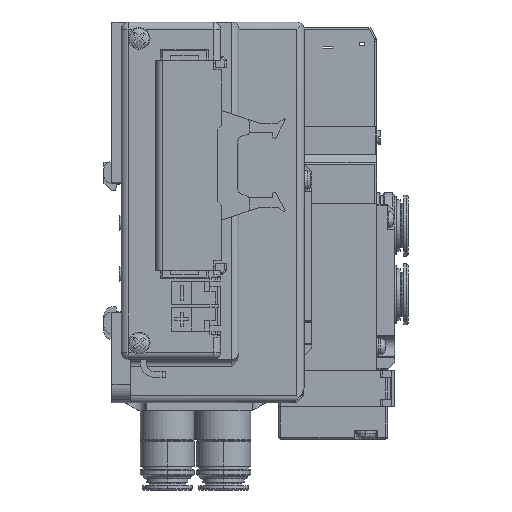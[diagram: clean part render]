
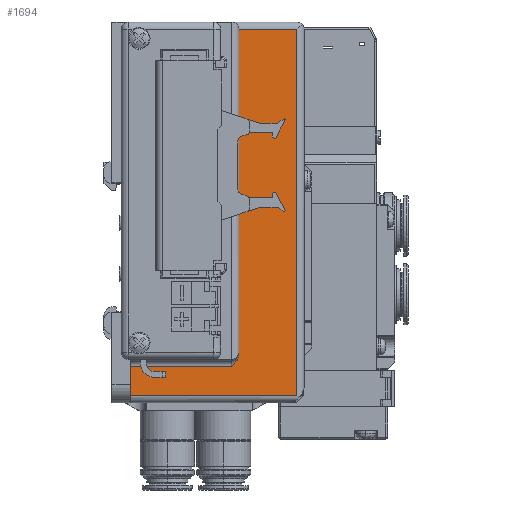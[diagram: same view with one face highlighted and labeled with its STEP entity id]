
A CAD part, left-side view. The second image highlights one B-rep face of the part: STEP entity #1694.
In plain terms, the highlighted planar face has unit normal (-1, 0, 0).
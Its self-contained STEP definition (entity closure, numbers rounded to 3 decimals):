
#1694=ADVANCED_FACE('',(#11585),#11584,.F.);
#11584=PLANE('',#25173);
#11585=FACE_OUTER_BOUND('',#25174,.T.);
#25170=CARTESIAN_POINT('',(19.5,-60.6,70.2));
#25171=DIRECTION('',(1.,0.,0.));
#25172=DIRECTION('',(0.,0.,-1.));
#25173=AXIS2_PLACEMENT_3D('',#25170,#25171,#25172);
#25174=EDGE_LOOP('',(#38159,#38160,#38161,#38162,#38163,#38164,#38165));
#38159=ORIENTED_EDGE('',*,*,#46896,.F.);
#38160=ORIENTED_EDGE('',*,*,#46839,.T.);
#38161=ORIENTED_EDGE('',*,*,#47093,.T.);
#38162=ORIENTED_EDGE('',*,*,#46683,.T.);
#38163=ORIENTED_EDGE('',*,*,#46954,.F.);
#38164=ORIENTED_EDGE('',*,*,#46956,.F.);
#38165=ORIENTED_EDGE('',*,*,#46893,.T.);
#46683=EDGE_CURVE('',#64741,#64742,#64743,.T.);
#46839=EDGE_CURVE('',#65807,#64797,#65820,.T.);
#46893=EDGE_CURVE('',#66177,#66170,#66178,.T.);
#46896=EDGE_CURVE('',#65807,#66170,#66196,.T.);
#46954=EDGE_CURVE('',#66581,#64742,#66582,.T.);
#46956=EDGE_CURVE('',#66177,#66581,#66594,.T.);
#47093=EDGE_CURVE('',#64797,#64741,#67527,.T.);
#64741=VERTEX_POINT('',#89682);
#64742=VERTEX_POINT('',#89683);
#64743=(BOUNDED_CURVE() B_SPLINE_CURVE(3,(#89684,#89685,#89686,#89687,#89688,#89689,#89690,#89691,#89692,#89693),.UNSPECIFIED.,.F.,.F.) B_SPLINE_CURVE_WITH_KNOTS((4,2,2,2,4),(0.,0.001,0.002,0.003,0.004),.UNSPECIFIED.) CURVE() GEOMETRIC_REPRESENTATION_ITEM() RATIONAL_B_SPLINE_CURVE((1.,1.,1.,1.,1.,1.,1.,1.,1.,1.)) REPRESENTATION_ITEM('') );
#64797=VERTEX_POINT('',#89725);
#65807=VERTEX_POINT('',#90313);
#65820=LINE('',#90320,#90321);
#66170=VERTEX_POINT('',#90532);
#66177=VERTEX_POINT('',#90536);
#66178=LINE('',#90537,#90538);
#66196=LINE('',#90558,#90559);
#66581=VERTEX_POINT('',#90786);
#66582=LINE('',#90787,#90788);
#66594=LINE('',#90794,#90795);
#67527=LINE('',#91361,#91362);
#89682=CARTESIAN_POINT('',(19.5,-40.,-29.336));
#89683=CARTESIAN_POINT('',(19.5,-38.,-32.8));
#89684=CARTESIAN_POINT('',(19.5,-40.,-29.336));
#89685=CARTESIAN_POINT('',(19.5,-40.,-29.683));
#89686=CARTESIAN_POINT('',(19.5,-39.934,-30.018));
#89687=CARTESIAN_POINT('',(19.5,-39.703,-30.669));
#89688=CARTESIAN_POINT('',(19.5,-39.543,-30.97));
#89689=CARTESIAN_POINT('',(19.5,-39.164,-31.539));
#89690=CARTESIAN_POINT('',(19.5,-38.945,-31.807));
#89691=CARTESIAN_POINT('',(19.5,-38.485,-32.315));
#89692=CARTESIAN_POINT('',(19.5,-38.241,-32.559));
#89693=CARTESIAN_POINT('',(19.5,-38.,-32.8));
#89725=CARTESIAN_POINT('',(19.5,-40.,60.2));
#90313=CARTESIAN_POINT('',(19.5,-56.,60.2));
#90320=CARTESIAN_POINT('',(19.5,-56.,60.2));
#90321=VECTOR('',#90322,16.);
#90322=DIRECTION('',(0.,1.,0.));
#90532=CARTESIAN_POINT('',(19.5,-56.,-40.8));
#90536=CARTESIAN_POINT('',(19.5,-10.,-40.8));
#90537=CARTESIAN_POINT('',(19.5,-10.,-40.8));
#90538=VECTOR('',#90539,46.);
#90539=DIRECTION('',(0.,-1.,0.));
#90558=CARTESIAN_POINT('',(19.5,-56.,60.2));
#90559=VECTOR('',#90560,101.);
#90560=DIRECTION('',(0.,0.,-1.));
#90786=CARTESIAN_POINT('',(19.5,-10.,-32.8));
#90787=CARTESIAN_POINT('',(19.5,-10.,-32.8));
#90788=VECTOR('',#90789,28.);
#90789=DIRECTION('',(0.,-1.,0.));
#90794=CARTESIAN_POINT('',(19.5,-10.,-40.8));
#90795=VECTOR('',#90796,8.);
#90796=DIRECTION('',(0.,0.,1.));
#91361=CARTESIAN_POINT('',(19.5,-40.,60.2));
#91362=VECTOR('',#91363,89.536);
#91363=DIRECTION('',(0.,0.,-1.));
